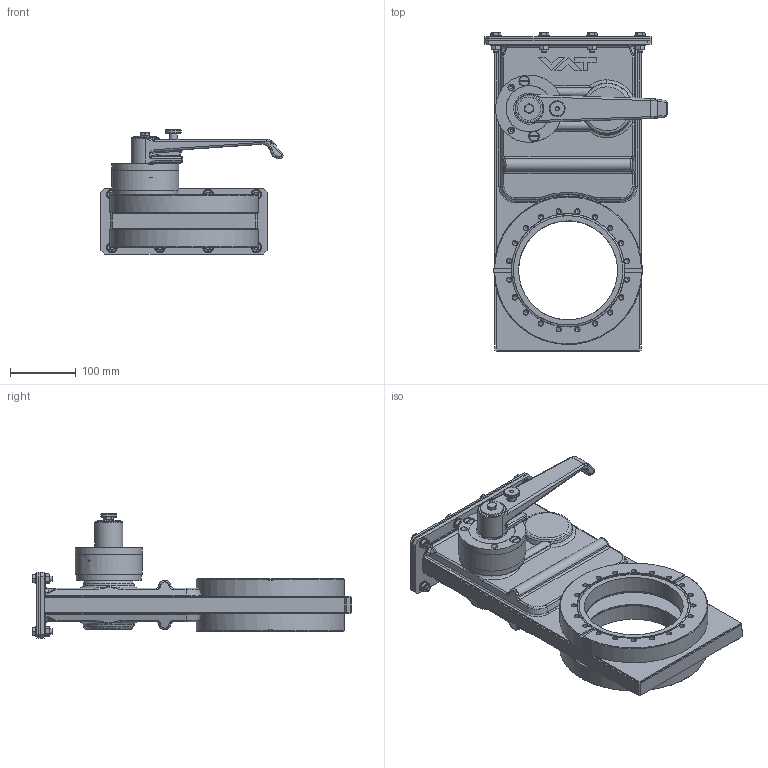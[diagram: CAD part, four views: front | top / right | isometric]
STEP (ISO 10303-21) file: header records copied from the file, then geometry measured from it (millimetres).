
FILE_DESCRIPTION((''),'2;1');
FILE_NAME('O:\MT\MT\Systeme\Cad\Datenexporte\www_vat_ch\212722.stp','2005-07-29T07:02:27',('User'),('SDRC'),'I-DEAS Master Series 9','UNIX','Yes');
FILE_SCHEMA(('CONFIG_CONTROL_DESIGN'));
Length unit declared in the file: millimetre
Assembly tree (56 placements, depth 0):
Bounding box: 276.09 x 483.9 x 188.07 mm (x, y, z)
Volume: 2468307.1 mm3; surface area: 901317.7 mm2
Topology: 75 solids, 75 shells, 1276 faces, 2869 edges, 1815 vertices
Faces by surface type: bspline 1276
Entity records: 36562 total; most frequent: CARTESIAN_POINT 20545, ORIENTED_EDGE 3864, EDGE_CURVE 1932, VERTEX_POINT 1227, EDGE_LOOP 999, FACE_OUTER_BOUND 823, ADVANCED_FACE 823, B_SPLINE_CURVE_WITH_KNOTS 739
